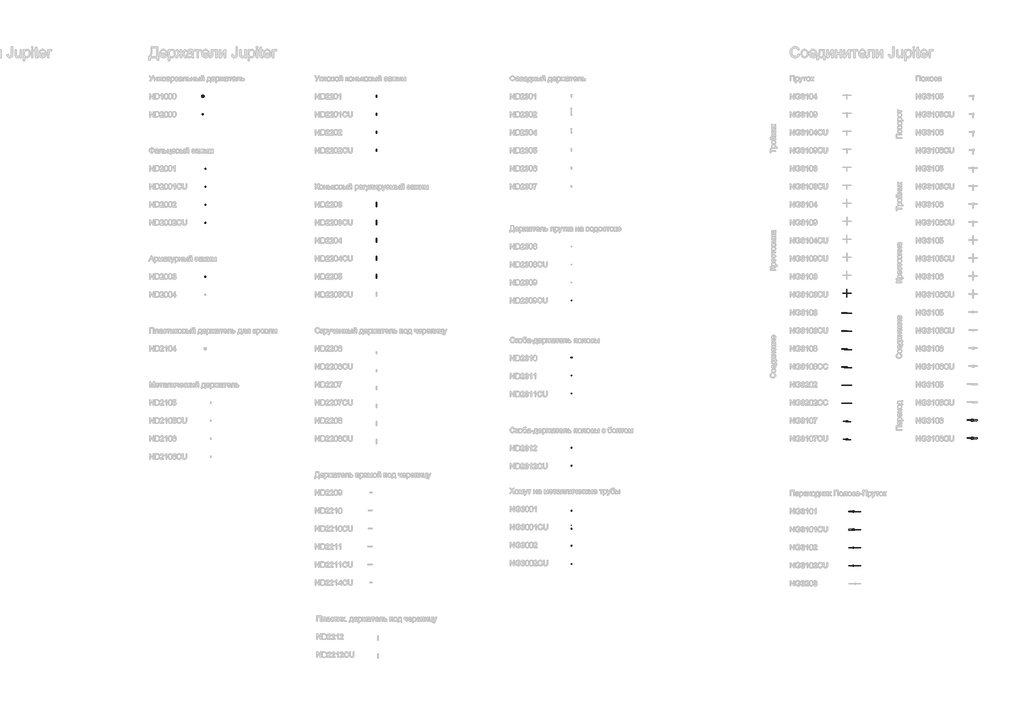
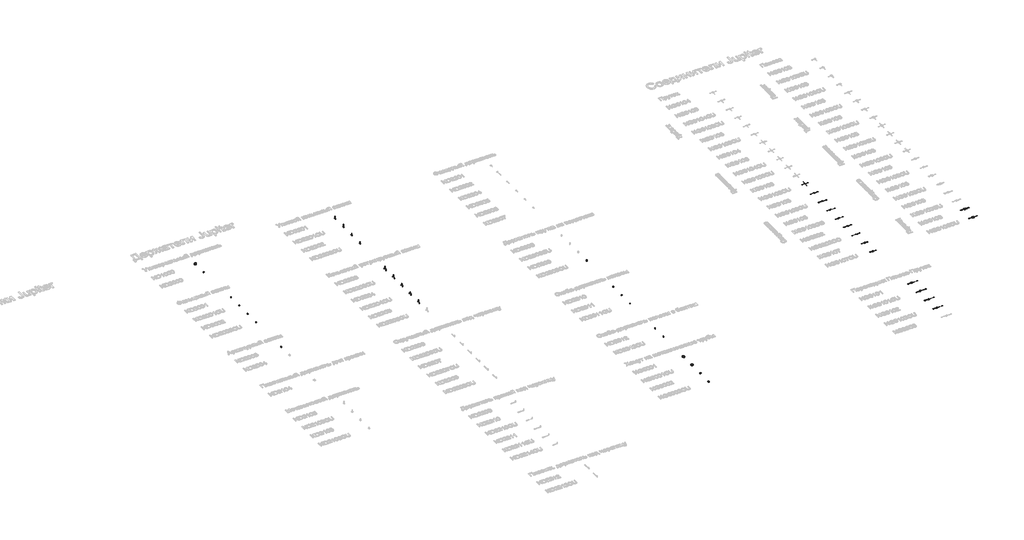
# One storey, part 4 of 124: 36 duct segments, 36 proxies, 3 duct fittings.
"""IFC4 building model written with IfcOpenShell, lengths in millimetres."""

from ifc_helpers import new_model, si_unit, point, frame, frame_2d, origin, place, context, project, spatial, polyline, circle_curve, trimmed, segment, composite_curve, outline, extrude, transform, mapped, element, save
from components import security_devices_cc728027, security_devices_46811bfe, security_devices_e27e2fcc, security_devices_21ef5ac7, security_devices_ac4f3ff4, security_devices_cea8c366, security_devices_44b4dedf, security_devices_d88ed466, security_devices_465cfc0b, security_devices_8e15ad44, security_devices_f6d8e784, security_devices_cc878f36, security_devices_9f6d2140, security_devices_44daf8d6, security_devices_ce004484, security_devices_262bb10d, security_devices_74660835, security_devices_2277527c, security_devices_c11cd4c4, security_devices_24ac14d3, security_devices_49846fc6, security_devices_9581dde5, duct_fitting_97711104, duct_fitting_08c6bc62

model = new_model("IFC4")

# Units and contexts
model_context = context("Model", 3, world=origin())
ifc_project = project(units=[si_unit("LENGTHUNIT", "METRE", prefix="MILLI")], contexts=[model_context])

# Site, building, storey
site = spatial("IfcSite", under=ifc_project)
building = spatial("IfcBuilding", under=site)
storey = spatial("IfcBuildingStorey", under=building, Name="Этаж 01", Elevation=0.0)

# Proxies
placement = place(None, origin())
security_devices_shape = security_devices_cc728027(model_context)
element("IfcBuildingElementProxy", 1, Name="КНС_ЗажимКоньковыйРегулируемый_DKC : ND2204_Горячеоцинкованная сталь_Пластиковый держатель", ObjectType="КНС_ЗажимКоньковыйРегулируемый_DKC : ND2204_Горячеоцинкованная сталь_Пластиковый держатель", at=placement, inside=storey, context=model_context, shape_type="MappedRepresentation", body=[
    mapped(security_devices_shape, transform((26740.3450598, -13375.2224286, 0.0), x_axis=(1.0, 0.0, 0.0), y_axis=(0.0, 1.0, 0.0), z_axis=(0.0, 0.0, 1.0))),
])
element("IfcBuildingElementProxy", 2, Name="КНС_ЗажимКоньковыйРегулируемый_DKC : ND2204CU_Медь_Пластиковый держатель", ObjectType="КНС_ЗажимКоньковыйРегулируемый_DKC : ND2204CU_Медь_Пластиковый держатель", at=placement, inside=storey, context=model_context, shape_type="MappedRepresentation", body=[
    mapped(security_devices_shape, transform((26740.3450598, -14375.2224286, 0.0), x_axis=(1.0, 0.0, 0.0), y_axis=(0.0, 1.0, 0.0), z_axis=(0.0, 0.0, 1.0))),
])
security_devices_2_shape = security_devices_46811bfe(model_context)
element("IfcBuildingElementProxy", 3, Name="КНС_ЗажимКоньковыйРегулируемый_DKC : ND2205_Горячеоцинкованная сталь", ObjectType="КНС_ЗажимКоньковыйРегулируемый_DKC : ND2205_Горячеоцинкованная сталь", at=placement, inside=storey, context=model_context, shape_type="MappedRepresentation", body=[
    mapped(security_devices_2_shape, transform((26740.3450598, -15375.2224286, 0.0), x_axis=(1.0, 0.0, 0.0), y_axis=(0.0, 1.0, 0.0), z_axis=(0.0, 0.0, 1.0))),
])
security_devices_3_shape = security_devices_e27e2fcc(model_context)
element("IfcBuildingElementProxy", 4, Name="КНС_ХомутНаМеталлическуюТрубу_DKC : NG3001CU_Медь_D80-160", ObjectType="КНС_ХомутНаМеталлическуюТрубу_DKC : NG3001CU_Медь_D80-160", at=placement, inside=storey, context=model_context, shape_type="MappedRepresentation", body=[
    mapped(security_devices_3_shape, transform((37561.6677041, -29277.1551823, 0.0), x_axis=(1.0, 0.0, 0.0), y_axis=(0.0, 1.0, 0.0), z_axis=(0.0, 0.0, 1.0))),
])
security_devices_4_shape = security_devices_21ef5ac7(model_context)
element("IfcBuildingElementProxy", 5, Name="КНС_СоединительПолосаПолоса_DKC : NG3106_Горячеоцинкованная сталь_100х100 мм", ObjectType="КНС_СоединительПолосаПолоса_DKC : NG3106_Горячеоцинкованная сталь_100х100 мм", at=placement, inside=storey, context=model_context, shape_type="MappedRepresentation", body=[
    mapped(security_devices_4_shape, transform((59813.3070748, -23351.033182, 0.0), x_axis=(1.0, 0.0, 0.0), y_axis=(0.0, 1.0, 0.0), z_axis=(0.0, 0.0, 1.0))),
])
element("IfcBuildingElementProxy", 6, Name="КНС_СоединительПолосаПолоса_DKC : NG3106CU_Медь_100х100 мм", ObjectType="КНС_СоединительПолосаПолоса_DKC : NG3106CU_Медь_100х100 мм", at=placement, inside=storey, context=model_context, shape_type="MappedRepresentation", body=[
    mapped(security_devices_4_shape, transform((59813.3070748, -24351.033182, 0.0), x_axis=(1.0, 0.0, 0.0), y_axis=(0.0, 1.0, 0.0), z_axis=(0.0, 0.0, 1.0))),
])
security_devices_5_shape = security_devices_ac4f3ff4(model_context)
element("IfcBuildingElementProxy", 7, Name="КНС_ПараллельныйЗажим_DKC : NG3108_Горячеоцинкованная сталь", ObjectType="КНС_ПараллельныйЗажим_DKC : NG3108_Горячеоцинкованная сталь", at=placement, inside=storey, context=model_context, shape_type="MappedRepresentation", body=[
    mapped(security_devices_5_shape, transform((52795.8122357, -19418.1770935, 0.0), x_axis=(0.0, 1.0, 0.0), y_axis=(-1.0, 0.0, 0.0), z_axis=(0.0, 0.0, 1.0))),
])
element("IfcBuildingElementProxy", 8, Name="КНС_ПараллельныйЗажим_DKC : NG3108CC_Омедненная сталь", ObjectType="КНС_ПараллельныйЗажим_DKC : NG3108CC_Омедненная сталь", at=placement, inside=storey, context=model_context, shape_type="MappedRepresentation", body=[
    mapped(security_devices_5_shape, transform((52795.8122357, -20418.2081196, 0.0), x_axis=(0.0, 1.0, 0.0), y_axis=(-1.0, 0.0, 0.0), z_axis=(0.0, 0.0, 1.0))),
])
security_devices_6_shape = security_devices_cea8c366(model_context)
element("IfcBuildingElementProxy", 9, Name="КНС_ПараллельныйЗажим_DKC : NG3107_Горячеоцинкованная сталь", ObjectType="КНС_ПараллельныйЗажим_DKC : NG3107_Горячеоцинкованная сталь", at=placement, inside=storey, context=model_context, shape_type="MappedRepresentation", body=[
    mapped(security_devices_6_shape, transform((52860.815004, -23417.7469214, -4.375), x_axis=(0.0, -1.0, 0.0), y_axis=(1.0, 0.0, 0.0), z_axis=(0.0, 0.0, 1.0))),
])
element("IfcBuildingElementProxy", 10, Name="КНС_ПараллельныйЗажим_DKC : NG3107CU_Медь", ObjectType="КНС_ПараллельныйЗажим_DKC : NG3107CU_Медь", at=placement, inside=storey, context=model_context, shape_type="MappedRepresentation", body=[
    mapped(security_devices_6_shape, transform((52860.815004, -24417.7469214, -4.375), x_axis=(0.0, -1.0, 0.0), y_axis=(1.0, 0.0, 0.0), z_axis=(0.0, 0.0, 1.0))),
])
security_devices_7_shape = security_devices_44b4dedf(model_context)
element("IfcBuildingElementProxy", 11, Name="КНС_СоединительПрутокПолоса_DKC : NG3101_Горячеоцинкованная сталь_57х80 мм", ObjectType="КНС_СоединительПрутокПолоса_DKC : NG3101_Горячеоцинкованная сталь_57х80 мм", at=placement, inside=storey, context=model_context, shape_type="MappedRepresentation", body=[
    mapped(security_devices_7_shape, transform((53218.3303693, -28431.258676, 0.0), x_axis=(0.0, -1.0, 0.0), y_axis=(1.0, 0.0, 0.0), z_axis=(0.0, 0.0, 1.0))),
])
element("IfcBuildingElementProxy", 12, Name="КНС_СоединительПрутокПолоса_DKC : NG3101CU_Медь_57х80 мм", ObjectType="КНС_СоединительПрутокПолоса_DKC : NG3101CU_Медь_57х80 мм", at=placement, inside=storey, context=model_context, shape_type="MappedRepresentation", body=[
    mapped(security_devices_7_shape, transform((53218.3303693, -29431.258676, 0.0), x_axis=(0.0, -1.0, 0.0), y_axis=(1.0, 0.0, 0.0), z_axis=(0.0, 0.0, 1.0))),
])
security_devices_8_shape = security_devices_d88ed466(model_context)
element("IfcBuildingElementProxy", 13, Name="КНС_СоединительПрутокПолоса_DKC : NG3102_Горячеоцинкованная сталь_57х57 мм", ObjectType="КНС_СоединительПрутокПолоса_DKC : NG3102_Горячеоцинкованная сталь_57х57 мм", at=placement, inside=storey, context=model_context, shape_type="MappedRepresentation", body=[
    mapped(security_devices_8_shape, transform((53218.3303693, -30431.258676, 0.0), x_axis=(0.0, -1.0, 0.0), y_axis=(1.0, 0.0, 0.0), z_axis=(0.0, 0.0, 1.0))),
])
element("IfcBuildingElementProxy", 14, Name="КНС_СоединительПрутокПолоса_DKC : NG3102CU_Медь_57х57 мм", ObjectType="КНС_СоединительПрутокПолоса_DKC : NG3102CU_Медь_57х57 мм", at=placement, inside=storey, context=model_context, shape_type="MappedRepresentation", body=[
    mapped(security_devices_8_shape, transform((53218.3303693, -31431.258676, 0.0), x_axis=(0.0, -1.0, 0.0), y_axis=(1.0, 0.0, 0.0), z_axis=(0.0, 0.0, 1.0))),
])
security_devices_9_shape = security_devices_465cfc0b(model_context)
element("IfcBuildingElementProxy", 15, Name="КНС_ДержательУниверсальный_DKC : ND1000_Полипропилен", ObjectType="КНС_ДержательУниверсальный_DKC : ND1000_Полипропилен", at=placement, inside=storey, context=model_context, shape_type="MappedRepresentation", body=[
    mapped(security_devices_9_shape, transform((17100.3450598, -5365.2224286, 0.0), x_axis=(1.0, 0.0, 0.0), y_axis=(0.0, 1.0, 0.0), z_axis=(0.0, 0.0, 1.0))),
])
security_devices_10_shape = security_devices_8e15ad44(model_context)
element("IfcBuildingElementProxy", 16, Name="КНС_ДержательУниверсальный_DKC : ND2000_Полипропилен", ObjectType="КНС_ДержательУниверсальный_DKC : ND2000_Полипропилен", at=placement, inside=storey, context=model_context, shape_type="MappedRepresentation", body=[
    mapped(security_devices_10_shape, transform((17100.3450598, -6365.2224286, 0.0), x_axis=(1.0, 0.0, 0.0), y_axis=(0.0, 1.0, 0.0), z_axis=(0.0, 0.0, 1.0))),
])
security_devices_11_shape = security_devices_f6d8e784(model_context)
element("IfcBuildingElementProxy", 17, Name="КНС_ЗажимФальцевый_DKC : ND2001_Горячеоцинкованная сталь", ObjectType="КНС_ЗажимФальцевый_DKC : ND2001_Горячеоцинкованная сталь", at=placement, inside=storey, context=model_context, shape_type="MappedRepresentation", body=[
    mapped(security_devices_11_shape, transform((17240.3450598, -9385.2224286, 0.0), x_axis=(1.0, 0.0, 0.0), y_axis=(0.0, 1.0, 0.0), z_axis=(0.0, 0.0, 1.0))),
])
element("IfcBuildingElementProxy", 18, Name="КНС_ЗажимФальцевый_DKC : ND2001CU_Медь", ObjectType="КНС_ЗажимФальцевый_DKC : ND2001CU_Медь", at=placement, inside=storey, context=model_context, shape_type="MappedRepresentation", body=[
    mapped(security_devices_11_shape, transform((17240.3450598, -10385.2224286, 0.0), x_axis=(1.0, 0.0, 0.0), y_axis=(0.0, 1.0, 0.0), z_axis=(0.0, 0.0, 1.0))),
])
security_devices_12_shape = security_devices_cc878f36(model_context)
element("IfcBuildingElementProxy", 19, Name="КНС_ЗажимФальцевый_DKC : ND2002_Горячеоцинкованная сталь", ObjectType="КНС_ЗажимФальцевый_DKC : ND2002_Горячеоцинкованная сталь", at=placement, inside=storey, context=model_context, shape_type="MappedRepresentation", body=[
    mapped(security_devices_12_shape, transform((17240.3450598, -11385.2224286, 0.0), x_axis=(1.0, 0.0, 0.0), y_axis=(0.0, 1.0, 0.0), z_axis=(0.0, 0.0, 1.0))),
])
element("IfcBuildingElementProxy", 20, Name="КНС_ЗажимФальцевый_DKC : ND2002CU_Медь", ObjectType="КНС_ЗажимФальцевый_DKC : ND2002CU_Медь", at=placement, inside=storey, context=model_context, shape_type="MappedRepresentation", body=[
    mapped(security_devices_12_shape, transform((17240.3450598, -12385.2224286, 0.0), x_axis=(1.0, 0.0, 0.0), y_axis=(0.0, 1.0, 0.0), z_axis=(0.0, 0.0, 1.0))),
])
security_devices_13_shape = security_devices_9f6d2140(model_context)
element("IfcBuildingElementProxy", 21, Name="КНС_ЗажимАрматурный_DKC : ND2003_Гальванически оцинкованнная сталь", ObjectType="КНС_ЗажимАрматурный_DKC : ND2003_Гальванически оцинкованнная сталь", at=placement, inside=storey, context=model_context, shape_type="MappedRepresentation", body=[
    mapped(security_devices_13_shape, transform((17240.3450598, -15385.2224286, 0.0), x_axis=(1.0, 0.0, 0.0), y_axis=(0.0, 1.0, 0.0), z_axis=(0.0, 0.0, 1.0))),
])
security_devices_14_shape = security_devices_44daf8d6(model_context)
element("IfcBuildingElementProxy", 22, Name="КНС_ЗажимУгловойКоньковый _DKC : ND2201_Горячеоцинкованная сталь_150 мм", ObjectType="КНС_ЗажимУгловойКоньковый _DKC : ND2201_Горячеоцинкованная сталь_150 мм", at=placement, inside=storey, context=model_context, shape_type="MappedRepresentation", body=[
    mapped(security_devices_14_shape, transform((26740.3450598, -5365.2224286, 0.0), x_axis=(1.0, 0.0, 0.0), y_axis=(0.0, 1.0, 0.0), z_axis=(0.0, 0.0, 1.0))),
])
security_devices_15_shape = security_devices_ce004484(model_context)
element("IfcBuildingElementProxy", 23, Name="КНС_ЗажимУгловойКоньковый _DKC : ND2202_Горячеоцинкованная сталь_100 мм", ObjectType="КНС_ЗажимУгловойКоньковый _DKC : ND2202_Горячеоцинкованная сталь_100 мм", at=placement, inside=storey, context=model_context, shape_type="MappedRepresentation", body=[
    mapped(security_devices_15_shape, transform((26740.3450598, -7365.2224286, 0.0), x_axis=(1.0, 0.0, 0.0), y_axis=(0.0, 1.0, 0.0), z_axis=(0.0, 0.0, 1.0))),
])
security_devices_16_shape = security_devices_262bb10d(model_context)
element("IfcBuildingElementProxy", 24, Name="КНС_ЗажимУгловойКоньковый _DKC : ND2201CU_Медь_150 мм", ObjectType="КНС_ЗажимУгловойКоньковый _DKC : ND2201CU_Медь_150 мм", at=placement, inside=storey, context=model_context, shape_type="MappedRepresentation", body=[
    mapped(security_devices_16_shape, transform((26740.3450598, -6365.2224286, 0.0), x_axis=(1.0, 0.0, 0.0), y_axis=(0.0, 1.0, 0.0), z_axis=(0.0, 0.0, 1.0))),
])
element("IfcBuildingElementProxy", 25, Name="КНС_ЗажимУгловойКоньковый _DKC : ND2202CU_Медь_100 мм", ObjectType="КНС_ЗажимУгловойКоньковый _DKC : ND2202CU_Медь_100 мм", at=placement, inside=storey, context=model_context, shape_type="MappedRepresentation", body=[
    mapped(security_devices_15_shape, transform((26740.3450598, -8365.2224286, 0.0), x_axis=(1.0, 0.0, 0.0), y_axis=(0.0, 1.0, 0.0), z_axis=(0.0, 0.0, 1.0))),
])
security_devices_17_shape = security_devices_74660835(model_context)
element("IfcBuildingElementProxy", 26, Name="КНС_ЗажимКоньковыйРегулируемый_DKC : ND2203CU_Медь_Увеличенный", ObjectType="КНС_ЗажимКоньковыйРегулируемый_DKC : ND2203CU_Медь_Увеличенный", at=placement, inside=storey, context=model_context, shape_type="MappedRepresentation", body=[
    mapped(security_devices_17_shape, transform((26740.3450598, -12375.2224286, 0.0), x_axis=(1.0, 0.0, 0.0), y_axis=(0.0, 1.0, 0.0), z_axis=(0.0, 0.0, 1.0))),
])
element("IfcBuildingElementProxy", 27, Name="КНС_ЗажимКоньковыйРегулируемый_DKC : ND2203_Горячеоцинкованная сталь_Увеличенный", ObjectType="КНС_ЗажимКоньковыйРегулируемый_DKC : ND2203_Горячеоцинкованная сталь_Увеличенный", at=placement, inside=storey, context=model_context, shape_type="MappedRepresentation", body=[
    mapped(security_devices_17_shape, transform((26740.3450598, -11375.2224286, 0.0), x_axis=(1.0, 0.0, 0.0), y_axis=(0.0, 1.0, 0.0), z_axis=(0.0, 0.0, 1.0))),
])
security_devices_18_shape = security_devices_2277527c(model_context)
element("IfcBuildingElementProxy", 28, Name="КНС_ДержательПруткаНаВодостоке_DKC : ND2309CU_Медь", ObjectType="КНС_ДержательПруткаНаВодостоке_DKC : ND2309CU_Медь", at=placement, inside=storey, context=model_context, shape_type="MappedRepresentation", body=[
    mapped(security_devices_18_shape, transform((37561.6677041, -16696.248794, 0.0), x_axis=(1.0, 0.0, 0.0), y_axis=(0.0, 1.0, 0.0), z_axis=(0.0, 0.0, 1.0))),
])
security_devices_19_shape = security_devices_c11cd4c4(model_context)
element("IfcBuildingElementProxy", 29, Name="КНС_СкобаДержательПолосы_DKC : ND2310_Горячеоцинкованная сталь_70 мм", ObjectType="КНС_СкобаДержательПолосы_DKC : ND2310_Горячеоцинкованная сталь_70 мм", at=placement, inside=storey, context=model_context, shape_type="MappedRepresentation", body=[
    mapped(security_devices_19_shape, transform((37561.6677041, -19896.248794, 0.0), x_axis=(1.0, 0.0, 0.0), y_axis=(0.0, 1.0, 0.0), z_axis=(0.0, 0.0, 1.0))),
])
security_devices_20_shape = security_devices_24ac14d3(model_context)
element("IfcBuildingElementProxy", 30, Name="КНС_СкобаДержательПолосы_DKC : ND2311_Горячеоцинкованная сталь_45 мм", ObjectType="КНС_СкобаДержательПолосы_DKC : ND2311_Горячеоцинкованная сталь_45 мм", at=placement, inside=storey, context=model_context, shape_type="MappedRepresentation", body=[
    mapped(security_devices_20_shape, transform((37561.6677041, -20896.248794, 0.0), x_axis=(1.0, 0.0, 0.0), y_axis=(0.0, 1.0, 0.0), z_axis=(0.0, 0.0, 1.0))),
])
element("IfcBuildingElementProxy", 31, Name="КНС_СкобаДержательПолосы_DKC : ND2311CU_Медь_45 мм", ObjectType="КНС_СкобаДержательПолосы_DKC : ND2311CU_Медь_45 мм", at=placement, inside=storey, context=model_context, shape_type="MappedRepresentation", body=[
    mapped(security_devices_20_shape, transform((37561.6677041, -21896.248794, 0.0), x_axis=(1.0, 0.0, 0.0), y_axis=(0.0, 1.0, 0.0), z_axis=(0.0, 0.0, 1.0))),
])
security_devices_21_shape = security_devices_49846fc6(model_context)
element("IfcBuildingElementProxy", 32, Name="КНС_СкобаДержательПолосыСБолтом_DKC : ND2312CU_Медь_45 мм", ObjectType="КНС_СкобаДержательПолосыСБолтом_DKC : ND2312CU_Медь_45 мм", at=placement, inside=storey, context=model_context, shape_type="MappedRepresentation", body=[
    mapped(security_devices_21_shape, transform((37561.6677041, -25896.248794, 0.0), x_axis=(1.0, 0.0, 0.0), y_axis=(0.0, 1.0, 0.0), z_axis=(0.0, 0.0, 1.0))),
])
element("IfcBuildingElementProxy", 33, Name="КНС_СкобаДержательПолосыСБолтом_DKC : ND2312_Горячеоцинкованная сталь_45 мм", ObjectType="КНС_СкобаДержательПолосыСБолтом_DKC : ND2312_Горячеоцинкованная сталь_45 мм", at=placement, inside=storey, context=model_context, shape_type="MappedRepresentation", body=[
    mapped(security_devices_21_shape, transform((37561.6677041, -24896.248794, 0.0), x_axis=(1.0, 0.0, 0.0), y_axis=(0.0, 1.0, 0.0), z_axis=(0.0, 0.0, 1.0))),
])
element("IfcBuildingElementProxy", 34, Name="КНС_ХомутНаМеталлическуюТрубу_DKC : NG3001_Нержавеющая сталь_D80-160", ObjectType="КНС_ХомутНаМеталлическуюТрубу_DKC : NG3001_Нержавеющая сталь_D80-160", at=placement, inside=storey, context=model_context, shape_type="MappedRepresentation", body=[
    mapped(security_devices_3_shape, transform((37561.6677041, -28277.1551823, 0.0), x_axis=(1.0, 0.0, 0.0), y_axis=(0.0, 1.0, 0.0), z_axis=(0.0, 0.0, 1.0))),
])
security_devices_22_shape = security_devices_9581dde5(model_context)
element("IfcBuildingElementProxy", 35, Name="КНС_ХомутНаМеталлическуюТрубу_DKC : NG3002_Нержавеющая сталь_D20-80", ObjectType="КНС_ХомутНаМеталлическуюТрубу_DKC : NG3002_Нержавеющая сталь_D20-80", at=placement, inside=storey, context=model_context, shape_type="MappedRepresentation", body=[
    mapped(security_devices_22_shape, transform((37561.6677041, -30277.1551823, 0.0), x_axis=(1.0, 0.0, 0.0), y_axis=(0.0, 1.0, 0.0), z_axis=(0.0, 0.0, 1.0))),
])
element("IfcBuildingElementProxy", 36, Name="КНС_ХомутНаМеталлическуюТрубу_DKC : NG3002CU_Медь_D20-80", ObjectType="КНС_ХомутНаМеталлическуюТрубу_DKC : NG3002CU_Медь_D20-80", at=placement, inside=storey, context=model_context, shape_type="MappedRepresentation", body=[
    mapped(security_devices_22_shape, transform((37561.6677041, -31277.1551823, 0.0), x_axis=(1.0, 0.0, 0.0), y_axis=(0.0, 1.0, 0.0), z_axis=(0.0, 0.0, 1.0))),
])

# Duct fittings
duct_fitting_shape = duct_fitting_97711104(model_context)
element("IfcDuctFitting", 37, ObjectType="КНС_Крестовина_Пруток_Неспецифицируемое_DKC : NG3103CU_Медь", at=placement, inside=storey, context=model_context, shape_type="MappedRepresentation", body=[
    mapped(duct_fitting_shape, transform((52856.4464175, -16309.3160042, 0.0), x_axis=(0.0, -1.0, 0.0), y_axis=(1.0, 0.0, 0.0), z_axis=(0.0, 0.0, 1.0))),
])
duct_fitting_2_shape = duct_fitting_08c6bc62(model_context)
element("IfcDuctFitting", 38, ObjectType="КНС_Переход_Полоса_Неспецифицируемое_DKC : NG3106_Горячеоцинкованная сталь_100х100 мм", at=placement, inside=storey, context=model_context, shape_type="MappedRepresentation", body=[
    mapped(duct_fitting_2_shape, transform((59822.0570748, -23351.033182, 0.0), x_axis=(1.0, 0.0, 0.0), y_axis=(0.0, 1.0, 0.0), z_axis=(0.0, 0.0, 1.0))),
])
element("IfcDuctFitting", 39, ObjectType="КНС_Переход_Полоса_Неспецифицируемое_DKC : NG3106CU_Медь_100х100 мм", at=placement, inside=storey, context=model_context, shape_type="MappedRepresentation", body=[
    mapped(duct_fitting_2_shape, transform((59822.0570748, -24351.033182, 0.0), x_axis=(1.0, 0.0, 0.0), y_axis=(0.0, 1.0, 0.0), z_axis=(0.0, 0.0, 1.0))),
])

# Duct segments
element("IfcDuctSegment", 40, ObjectType="КНС_Пруток_Горячеоцинкованный_8/10мм_DKC", at=placement, inside=storey, context=model_context, shape_type="SweptSolid", body=[
    extrude(outline(composite_curve([segment(trimmed(circle_curve(frame_2d((0.0, 52856.4464175)), 4.0), [point((0.0, 52852.4464175))], [point((-4.0, 52856.4464175))], False, "CARTESIAN"), True, "CONTINUOUS"), segment(trimmed(circle_curve(frame_2d((0.0, 52856.4464175)), 4.0), [point((-4.0, 52856.4464175))], [point((0.0, 52860.4464175))], False, "CARTESIAN"), True, "CONTINUOUS"), segment(trimmed(circle_curve(frame_2d((0.0, 52856.4464175)), 4.0), [point((0.0, 52860.4464175))], [point((4.0, 52856.4464175))], False, "CARTESIAN"), True, "CONTINUOUS"), segment(trimmed(circle_curve(frame_2d((0.0, 52856.4464175)), 4.0), [point((4.0, 52856.4464175))], [point((0.0, 52852.4464175))], False, "CARTESIAN"), True, "CONTINUOUS")], self_intersect=False)), frame((0.0, -16537.8160042, 0.0), z_axis=(0.0, 1.0, 0.0), x_axis=(0.0, 0.0, 1.0)), (0.0, 0.0, 1.0), 213.5),
])
element("IfcDuctSegment", 41, ObjectType="КНС_Пруток_Горячеоцинкованный_8/10мм_DKC", at=placement, inside=storey, context=model_context, shape_type="SweptSolid", body=[
    extrude(outline(composite_curve([segment(trimmed(circle_curve(frame_2d((-16309.3160042, 0.0)), 4.0), [point((-16305.3160042, 0.0))], [point((-16309.3160042, -4.0))], False, "CARTESIAN"), True, "CONTINUOUS"), segment(trimmed(circle_curve(frame_2d((-16309.3160042, 0.0)), 4.0), [point((-16309.3160042, -4.0))], [point((-16313.3160042, 0.0))], False, "CARTESIAN"), True, "CONTINUOUS"), segment(trimmed(circle_curve(frame_2d((-16309.3160042, 0.0)), 4.0), [point((-16313.3160042, 0.0))], [point((-16309.3160042, 4.0))], False, "CARTESIAN"), True, "CONTINUOUS"), segment(trimmed(circle_curve(frame_2d((-16309.3160042, 0.0)), 4.0), [point((-16309.3160042, 4.0))], [point((-16305.3160042, 0.0))], False, "CARTESIAN"), True, "CONTINUOUS")], self_intersect=False)), frame((52627.9464175, 0.0, 0.0), z_axis=(1.0, 0.0, 0.0), x_axis=(0.0, 1.0, 0.0)), (0.0, 0.0, 1.0), 198.5),
])
element("IfcDuctSegment", 42, ObjectType="КНС_Пруток_Горячеоцинкованный_8/10мм_DKC", at=placement, inside=storey, context=model_context, shape_type="SweptSolid", body=[
    extrude(outline(composite_curve([segment(trimmed(circle_curve(frame_2d((-16309.3160042, 0.0)), 4.0), [point((-16305.3160042, 0.0))], [point((-16309.3160042, -4.0))], False, "CARTESIAN"), True, "CONTINUOUS"), segment(trimmed(circle_curve(frame_2d((-16309.3160042, 0.0)), 4.0), [point((-16309.3160042, -4.0))], [point((-16313.3160042, 0.0))], False, "CARTESIAN"), True, "CONTINUOUS"), segment(trimmed(circle_curve(frame_2d((-16309.3160042, 0.0)), 4.0), [point((-16313.3160042, 0.0))], [point((-16309.3160042, 4.0))], False, "CARTESIAN"), True, "CONTINUOUS"), segment(trimmed(circle_curve(frame_2d((-16309.3160042, 0.0)), 4.0), [point((-16309.3160042, 4.0))], [point((-16305.3160042, 0.0))], False, "CARTESIAN"), True, "CONTINUOUS")], self_intersect=False)), frame((52871.4464175, 0.0, 0.0), z_axis=(1.0, 0.0, 0.0), x_axis=(0.0, 1.0, 0.0)), (0.0, 0.0, 1.0), 213.5),
])
element("IfcDuctSegment", 43, ObjectType="КНС_Пруток_Горячеоцинкованный_8/10мм_DKC", at=placement, inside=storey, context=model_context, shape_type="SweptSolid", body=[
    extrude(outline(composite_curve([segment(trimmed(circle_curve(frame_2d((0.0, 52856.4464175)), 4.0), [point((0.0, 52860.4464175))], [point((4.0, 52856.4464175))], False, "CARTESIAN"), True, "CONTINUOUS"), segment(trimmed(circle_curve(frame_2d((0.0, 52856.4464175)), 4.0), [point((4.0, 52856.4464175))], [point((0.0, 52852.4464175))], False, "CARTESIAN"), True, "CONTINUOUS"), segment(trimmed(circle_curve(frame_2d((0.0, 52856.4464175)), 4.0), [point((0.0, 52852.4464175))], [point((-4.0, 52856.4464175))], False, "CARTESIAN"), True, "CONTINUOUS"), segment(trimmed(circle_curve(frame_2d((0.0, 52856.4464175)), 4.0), [point((-4.0, 52856.4464175))], [point((0.0, 52860.4464175))], False, "CARTESIAN"), True, "CONTINUOUS")], self_intersect=False)), frame((0.0, -16279.3160042, 0.0), z_axis=(0.0, 1.0, 0.0), x_axis=(0.0, 0.0, 1.0)), (0.0, 0.0, 1.0), 198.5),
])
element("IfcDuctSegment", 44, ObjectType="КНС_Полоса_Горячеоцинкованная_25х4/40х4/40x5/50х5мм_DKC", at=placement, inside=storey, context=model_context, shape_type="SweptSolid", body=[
    extrude(outline(polyline([(52956.8303693, -28443.758676), (52956.8303693, -28418.758676), (53296.8303693, -28418.758676), (53296.8303693, -28443.758676), (52956.8303693, -28443.758676)])), frame((0.0, 0.0, -2.0), z_axis=(0.0, 0.0, 1.0), x_axis=(1.0, 0.0, 0.0)), (0.0, 0.0, 1.0), 4.0),
])
element("IfcDuctSegment", 45, ObjectType="КНС_Пруток_Горячеоцинкованный_8/10мм_DKC", at=placement, inside=storey, context=model_context, shape_type="SweptSolid", body=[
    extrude(outline(composite_curve([segment(trimmed(circle_curve(frame_2d((-28431.258676, 0.0)), 4.0), [point((-28435.258676, 0.0))], [point((-28431.258676, 4.0))], False, "CARTESIAN"), True, "CONTINUOUS"), segment(trimmed(circle_curve(frame_2d((-28431.258676, 0.0)), 4.0), [point((-28431.258676, 4.0))], [point((-28427.258676, 0.0))], False, "CARTESIAN"), True, "CONTINUOUS"), segment(trimmed(circle_curve(frame_2d((-28431.258676, 0.0)), 4.0), [point((-28427.258676, 0.0))], [point((-28431.258676, -4.0))], False, "CARTESIAN"), True, "CONTINUOUS"), segment(trimmed(circle_curve(frame_2d((-28431.258676, 0.0)), 4.0), [point((-28431.258676, -4.0))], [point((-28435.258676, 0.0))], False, "CARTESIAN"), True, "CONTINUOUS")], self_intersect=False)), frame((53139.8303693, 0.0, 0.0), z_axis=(1.0, 0.0, 0.0), x_axis=(0.0, 1.0, 0.0)), (0.0, 0.0, 1.0), 497.0),
])
element("IfcDuctSegment", 46, ObjectType="КНС_Полоса_Горячеоцинкованная_25х4/40х4/40x5/50х5мм_DKC", at=placement, inside=storey, context=model_context, shape_type="SweptSolid", body=[
    extrude(outline(polyline([(52956.8303693, -29451.258676), (52956.8303693, -29411.258676), (53296.8303693, -29411.258676), (53296.8303693, -29451.258676), (52956.8303693, -29451.258676)])), frame((0.0, 0.0, -2.0), z_axis=(0.0, 0.0, 1.0), x_axis=(1.0, 0.0, 0.0)), (0.0, 0.0, 1.0), 4.0),
])
element("IfcDuctSegment", 47, ObjectType="КНС_Пруток_Горячеоцинкованный_8/10мм_DKC", at=placement, inside=storey, context=model_context, shape_type="SweptSolid", body=[
    extrude(outline(composite_curve([segment(trimmed(circle_curve(frame_2d((-29431.258676, 0.0)), 4.0), [point((-29435.258676, 0.0))], [point((-29431.258676, 4.0))], False, "CARTESIAN"), True, "CONTINUOUS"), segment(trimmed(circle_curve(frame_2d((-29431.258676, 0.0)), 4.0), [point((-29431.258676, 4.0))], [point((-29427.258676, 0.0))], False, "CARTESIAN"), True, "CONTINUOUS"), segment(trimmed(circle_curve(frame_2d((-29431.258676, 0.0)), 4.0), [point((-29427.258676, 0.0))], [point((-29431.258676, -4.0))], False, "CARTESIAN"), True, "CONTINUOUS"), segment(trimmed(circle_curve(frame_2d((-29431.258676, 0.0)), 4.0), [point((-29431.258676, -4.0))], [point((-29435.258676, 0.0))], False, "CARTESIAN"), True, "CONTINUOUS")], self_intersect=False)), frame((53139.8303693, 0.0, 0.0), z_axis=(1.0, 0.0, 0.0), x_axis=(0.0, 1.0, 0.0)), (0.0, 0.0, 1.0), 497.0),
])
element("IfcDuctSegment", 48, ObjectType="КНС_Полоса_Горячеоцинкованная_25х4/40х4/40x5/50х5мм_DKC", at=placement, inside=storey, context=model_context, shape_type="SweptSolid", body=[
    extrude(outline(polyline([(52956.8303693, -30443.758676), (52956.8303693, -30418.758676), (53296.8303693, -30418.758676), (53296.8303693, -30443.758676), (52956.8303693, -30443.758676)])), frame((0.0, 0.0, -2.0), z_axis=(0.0, 0.0, 1.0), x_axis=(1.0, 0.0, 0.0)), (0.0, 0.0, 1.0), 4.0),
])
element("IfcDuctSegment", 49, ObjectType="КНС_Пруток_Горячеоцинкованный_8/10мм_DKC", at=placement, inside=storey, context=model_context, shape_type="SweptSolid", body=[
    extrude(outline(composite_curve([segment(trimmed(circle_curve(frame_2d((-30431.258676, 0.0)), 4.0), [point((-30435.258676, 0.0))], [point((-30431.258676, 4.0))], False, "CARTESIAN"), True, "CONTINUOUS"), segment(trimmed(circle_curve(frame_2d((-30431.258676, 0.0)), 4.0), [point((-30431.258676, 4.0))], [point((-30427.258676, 0.0))], False, "CARTESIAN"), True, "CONTINUOUS"), segment(trimmed(circle_curve(frame_2d((-30431.258676, 0.0)), 4.0), [point((-30427.258676, 0.0))], [point((-30431.258676, -4.0))], False, "CARTESIAN"), True, "CONTINUOUS"), segment(trimmed(circle_curve(frame_2d((-30431.258676, 0.0)), 4.0), [point((-30431.258676, -4.0))], [point((-30435.258676, 0.0))], False, "CARTESIAN"), True, "CONTINUOUS")], self_intersect=False)), frame((53139.8303693, 0.0, 0.0), z_axis=(1.0, 0.0, 0.0), x_axis=(0.0, 1.0, 0.0)), (0.0, 0.0, 1.0), 497.0),
])
element("IfcDuctSegment", 50, ObjectType="КНС_Полоса_Горячеоцинкованная_25х4/40х4/40x5/50х5мм_DKC", at=placement, inside=storey, context=model_context, shape_type="SweptSolid", body=[
    extrude(outline(polyline([(52956.8303693, -31443.758676), (52956.8303693, -31418.758676), (53296.8303693, -31418.758676), (53296.8303693, -31443.758676), (52956.8303693, -31443.758676)])), frame((0.0, 0.0, -2.0), z_axis=(0.0, 0.0, 1.0), x_axis=(1.0, 0.0, 0.0)), (0.0, 0.0, 1.0), 4.0),
])
element("IfcDuctSegment", 51, ObjectType="КНС_Пруток_Горячеоцинкованный_8/10мм_DKC", at=placement, inside=storey, context=model_context, shape_type="SweptSolid", body=[
    extrude(outline(composite_curve([segment(trimmed(circle_curve(frame_2d((-31431.258676, 0.0)), 4.0), [point((-31435.258676, 0.0))], [point((-31431.258676, 4.0))], False, "CARTESIAN"), True, "CONTINUOUS"), segment(trimmed(circle_curve(frame_2d((-31431.258676, 0.0)), 4.0), [point((-31431.258676, 4.0))], [point((-31427.258676, 0.0))], False, "CARTESIAN"), True, "CONTINUOUS"), segment(trimmed(circle_curve(frame_2d((-31431.258676, 0.0)), 4.0), [point((-31427.258676, 0.0))], [point((-31431.258676, -4.0))], False, "CARTESIAN"), True, "CONTINUOUS"), segment(trimmed(circle_curve(frame_2d((-31431.258676, 0.0)), 4.0), [point((-31431.258676, -4.0))], [point((-31435.258676, 0.0))], False, "CARTESIAN"), True, "CONTINUOUS")], self_intersect=False)), frame((53139.8303693, 0.0, 0.0), z_axis=(1.0, 0.0, 0.0), x_axis=(0.0, 1.0, 0.0)), (0.0, 0.0, 1.0), 497.0),
])
element("IfcDuctSegment", 52, ObjectType="КНС_Пруток_Горячеоцинкованный_8/10мм_DKC", at=placement, inside=storey, context=model_context, shape_type="SweptSolid", body=[
    extrude(outline(composite_curve([segment(trimmed(circle_curve(frame_2d((-17417.5081196, 0.0)), 5.0), [point((-17422.5081196, 0.0))], [point((-17417.5081196, 5.0))], False, "CARTESIAN"), True, "CONTINUOUS"), segment(trimmed(circle_curve(frame_2d((-17417.5081196, 0.0)), 5.0), [point((-17417.5081196, 5.0))], [point((-17412.5081196, 0.0))], False, "CARTESIAN"), True, "CONTINUOUS"), segment(trimmed(circle_curve(frame_2d((-17417.5081196, 0.0)), 5.0), [point((-17412.5081196, 0.0))], [point((-17417.5081196, -5.0))], False, "CARTESIAN"), True, "CONTINUOUS"), segment(trimmed(circle_curve(frame_2d((-17417.5081196, 0.0)), 5.0), [point((-17417.5081196, -5.0))], [point((-17422.5081196, 0.0))], False, "CARTESIAN"), True, "CONTINUOUS")], self_intersect=False)), frame((52829.3122357, 0.0, 0.0), z_axis=(1.0, 0.0, 0.0), x_axis=(0.0, 1.0, 0.0)), (0.0, 0.0, 1.0), 300.0),
])
element("IfcDuctSegment", 53, ObjectType="КНС_Пруток_Горячеоцинкованный_8/10мм_DKC", at=placement, inside=storey, context=model_context, shape_type="SweptSolid", body=[
    extrude(outline(composite_curve([segment(trimmed(circle_curve(frame_2d((-17402.5081196, 0.0)), 5.0), [point((-17407.5081196, 0.0))], [point((-17402.5081196, 5.0))], False, "CARTESIAN"), True, "CONTINUOUS"), segment(trimmed(circle_curve(frame_2d((-17402.5081196, 0.0)), 5.0), [point((-17402.5081196, 5.0))], [point((-17397.5081196, 0.0))], False, "CARTESIAN"), True, "CONTINUOUS"), segment(trimmed(circle_curve(frame_2d((-17402.5081196, 0.0)), 5.0), [point((-17397.5081196, 0.0))], [point((-17402.5081196, -5.0))], False, "CARTESIAN"), True, "CONTINUOUS"), segment(trimmed(circle_curve(frame_2d((-17402.5081196, 0.0)), 5.0), [point((-17402.5081196, -5.0))], [point((-17407.5081196, 0.0))], False, "CARTESIAN"), True, "CONTINUOUS")], self_intersect=False)), frame((52574.3122357, 0.0, 0.0), z_axis=(1.0, 0.0, 0.0), x_axis=(0.0, 1.0, 0.0)), (0.0, 0.0, 1.0), 300.0),
])
element("IfcDuctSegment", 54, ObjectType="КНС_Пруток_Горячеоцинкованный_8/10мм_DKC", at=placement, inside=storey, context=model_context, shape_type="SweptSolid", body=[
    extrude(outline(composite_curve([segment(trimmed(circle_curve(frame_2d((-18417.5081196, 0.0)), 5.0), [point((-18422.5081196, 0.0))], [point((-18417.5081196, 5.0))], False, "CARTESIAN"), True, "CONTINUOUS"), segment(trimmed(circle_curve(frame_2d((-18417.5081196, 0.0)), 5.0), [point((-18417.5081196, 5.0))], [point((-18412.5081196, 0.0))], False, "CARTESIAN"), True, "CONTINUOUS"), segment(trimmed(circle_curve(frame_2d((-18417.5081196, 0.0)), 5.0), [point((-18412.5081196, 0.0))], [point((-18417.5081196, -5.0))], False, "CARTESIAN"), True, "CONTINUOUS"), segment(trimmed(circle_curve(frame_2d((-18417.5081196, 0.0)), 5.0), [point((-18417.5081196, -5.0))], [point((-18422.5081196, 0.0))], False, "CARTESIAN"), True, "CONTINUOUS")], self_intersect=False)), frame((52829.3122357, 0.0, 0.0), z_axis=(1.0, 0.0, 0.0), x_axis=(0.0, 1.0, 0.0)), (0.0, 0.0, 1.0), 300.0),
])
element("IfcDuctSegment", 55, ObjectType="КНС_Пруток_Горячеоцинкованный_8/10мм_DKC", at=placement, inside=storey, context=model_context, shape_type="SweptSolid", body=[
    extrude(outline(composite_curve([segment(trimmed(circle_curve(frame_2d((-18402.5081196, 0.0)), 5.0), [point((-18407.5081196, 0.0))], [point((-18402.5081196, 5.0))], False, "CARTESIAN"), True, "CONTINUOUS"), segment(trimmed(circle_curve(frame_2d((-18402.5081196, 0.0)), 5.0), [point((-18402.5081196, 5.0))], [point((-18397.5081196, 0.0))], False, "CARTESIAN"), True, "CONTINUOUS"), segment(trimmed(circle_curve(frame_2d((-18402.5081196, 0.0)), 5.0), [point((-18397.5081196, 0.0))], [point((-18402.5081196, -5.0))], False, "CARTESIAN"), True, "CONTINUOUS"), segment(trimmed(circle_curve(frame_2d((-18402.5081196, 0.0)), 5.0), [point((-18402.5081196, -5.0))], [point((-18407.5081196, 0.0))], False, "CARTESIAN"), True, "CONTINUOUS")], self_intersect=False)), frame((52574.3122357, 0.0, 0.0), z_axis=(1.0, 0.0, 0.0), x_axis=(0.0, 1.0, 0.0)), (0.0, 0.0, 1.0), 300.0),
])
element("IfcDuctSegment", 56, ObjectType="КНС_Пруток_Горячеоцинкованный_8/10мм_DKC", at=placement, inside=storey, context=model_context, shape_type="SweptSolid", body=[
    extrude(outline(composite_curve([segment(trimmed(circle_curve(frame_2d((-19434.1081196, 0.0)), 5.0), [point((-19439.1081196, 0.0))], [point((-19434.1081196, 5.0))], False, "CARTESIAN"), True, "CONTINUOUS"), segment(trimmed(circle_curve(frame_2d((-19434.1081196, 0.0)), 5.0), [point((-19434.1081196, 5.0))], [point((-19429.1081196, 0.0))], False, "CARTESIAN"), True, "CONTINUOUS"), segment(trimmed(circle_curve(frame_2d((-19434.1081196, 0.0)), 5.0), [point((-19429.1081196, 0.0))], [point((-19434.1081196, -5.0))], False, "CARTESIAN"), True, "CONTINUOUS"), segment(trimmed(circle_curve(frame_2d((-19434.1081196, 0.0)), 5.0), [point((-19434.1081196, -5.0))], [point((-19439.1081196, 0.0))], False, "CARTESIAN"), True, "CONTINUOUS")], self_intersect=False)), frame((52717.3122357, 0.0, 0.0), z_axis=(1.0, 0.0, 0.0), x_axis=(0.0, 1.0, 0.0)), (0.0, 0.0, 1.0), 412.0),
])
element("IfcDuctSegment", 57, ObjectType="КНС_Пруток_Горячеоцинкованный_8/10мм_DKC", at=placement, inside=storey, context=model_context, shape_type="SweptSolid", body=[
    extrude(outline(composite_curve([segment(trimmed(circle_curve(frame_2d((-19402.5081196, 0.0)), 5.0), [point((-19407.5081196, 0.0))], [point((-19402.5081196, 5.0))], False, "CARTESIAN"), True, "CONTINUOUS"), segment(trimmed(circle_curve(frame_2d((-19402.5081196, 0.0)), 5.0), [point((-19402.5081196, 5.0))], [point((-19397.5081196, 0.0))], False, "CARTESIAN"), True, "CONTINUOUS"), segment(trimmed(circle_curve(frame_2d((-19402.5081196, 0.0)), 5.0), [point((-19397.5081196, 0.0))], [point((-19402.5081196, -5.0))], False, "CARTESIAN"), True, "CONTINUOUS"), segment(trimmed(circle_curve(frame_2d((-19402.5081196, 0.0)), 5.0), [point((-19402.5081196, -5.0))], [point((-19407.5081196, 0.0))], False, "CARTESIAN"), True, "CONTINUOUS")], self_intersect=False)), frame((52574.3122357, 0.0, 0.0), z_axis=(1.0, 0.0, 0.0), x_axis=(0.0, 1.0, 0.0)), (0.0, 0.0, 1.0), 300.0),
])
element("IfcDuctSegment", 58, ObjectType="КНС_Пруток_Горячеоцинкованный_8/10мм_DKC", at=placement, inside=storey, context=model_context, shape_type="SweptSolid", body=[
    extrude(outline(composite_curve([segment(trimmed(circle_curve(frame_2d((-20434.1081196, 0.0)), 5.0), [point((-20439.1081196, 0.0))], [point((-20434.1081196, 5.0))], False, "CARTESIAN"), True, "CONTINUOUS"), segment(trimmed(circle_curve(frame_2d((-20434.1081196, 0.0)), 5.0), [point((-20434.1081196, 5.0))], [point((-20429.1081196, 0.0))], False, "CARTESIAN"), True, "CONTINUOUS"), segment(trimmed(circle_curve(frame_2d((-20434.1081196, 0.0)), 5.0), [point((-20429.1081196, 0.0))], [point((-20434.1081196, -5.0))], False, "CARTESIAN"), True, "CONTINUOUS"), segment(trimmed(circle_curve(frame_2d((-20434.1081196, 0.0)), 5.0), [point((-20434.1081196, -5.0))], [point((-20439.1081196, 0.0))], False, "CARTESIAN"), True, "CONTINUOUS")], self_intersect=False)), frame((52717.3122357, 0.0, 0.0), z_axis=(1.0, 0.0, 0.0), x_axis=(0.0, 1.0, 0.0)), (0.0, 0.0, 1.0), 412.0),
])
element("IfcDuctSegment", 59, ObjectType="КНС_Пруток_Горячеоцинкованный_8/10мм_DKC", at=placement, inside=storey, context=model_context, shape_type="SweptSolid", body=[
    extrude(outline(composite_curve([segment(trimmed(circle_curve(frame_2d((-20402.5081196, 0.0)), 5.0), [point((-20407.5081196, 0.0))], [point((-20402.5081196, 5.0))], False, "CARTESIAN"), True, "CONTINUOUS"), segment(trimmed(circle_curve(frame_2d((-20402.5081196, 0.0)), 5.0), [point((-20402.5081196, 5.0))], [point((-20397.5081196, 0.0))], False, "CARTESIAN"), True, "CONTINUOUS"), segment(trimmed(circle_curve(frame_2d((-20402.5081196, 0.0)), 5.0), [point((-20397.5081196, 0.0))], [point((-20402.5081196, -5.0))], False, "CARTESIAN"), True, "CONTINUOUS"), segment(trimmed(circle_curve(frame_2d((-20402.5081196, 0.0)), 5.0), [point((-20402.5081196, -5.0))], [point((-20407.5081196, 0.0))], False, "CARTESIAN"), True, "CONTINUOUS")], self_intersect=False)), frame((52574.3122357, 0.0, 0.0), z_axis=(1.0, 0.0, 0.0), x_axis=(0.0, 1.0, 0.0)), (0.0, 0.0, 1.0), 300.0),
])
element("IfcDuctSegment", 60, ObjectType="КНС_Пруток_Горячеоцинкованный_8/10мм_DKC", at=placement, inside=storey, context=model_context, shape_type="SweptSolid", body=[
    extrude(outline(composite_curve([segment(trimmed(circle_curve(frame_2d((-21402.5081196, 0.0)), 5.0), [point((-21407.5081196, 0.0))], [point((-21402.5081196, 5.0))], False, "CARTESIAN"), True, "CONTINUOUS"), segment(trimmed(circle_curve(frame_2d((-21402.5081196, 0.0)), 5.0), [point((-21402.5081196, 5.0))], [point((-21397.5081196, 0.0))], False, "CARTESIAN"), True, "CONTINUOUS"), segment(trimmed(circle_curve(frame_2d((-21402.5081196, 0.0)), 5.0), [point((-21397.5081196, 0.0))], [point((-21402.5081196, -5.0))], False, "CARTESIAN"), True, "CONTINUOUS"), segment(trimmed(circle_curve(frame_2d((-21402.5081196, 0.0)), 5.0), [point((-21402.5081196, -5.0))], [point((-21407.5081196, 0.0))], False, "CARTESIAN"), True, "CONTINUOUS")], self_intersect=False)), frame((52874.3122357, 0.0, 0.0), z_axis=(1.0, 0.0, 0.0), x_axis=(0.0, 1.0, 0.0)), (0.0, 0.0, 1.0), 255.0),
])
element("IfcDuctSegment", 61, ObjectType="КНС_Пруток_Горячеоцинкованный_8/10мм_DKC", at=placement, inside=storey, context=model_context, shape_type="SweptSolid", body=[
    extrude(outline(composite_curve([segment(trimmed(circle_curve(frame_2d((-21402.5081196, 0.0)), 5.0), [point((-21407.5081196, 0.0))], [point((-21402.5081196, 5.0))], False, "CARTESIAN"), True, "CONTINUOUS"), segment(trimmed(circle_curve(frame_2d((-21402.5081196, 0.0)), 5.0), [point((-21402.5081196, 5.0))], [point((-21397.5081196, 0.0))], False, "CARTESIAN"), True, "CONTINUOUS"), segment(trimmed(circle_curve(frame_2d((-21402.5081196, 0.0)), 5.0), [point((-21397.5081196, 0.0))], [point((-21402.5081196, -5.0))], False, "CARTESIAN"), True, "CONTINUOUS"), segment(trimmed(circle_curve(frame_2d((-21402.5081196, 0.0)), 5.0), [point((-21402.5081196, -5.0))], [point((-21407.5081196, 0.0))], False, "CARTESIAN"), True, "CONTINUOUS")], self_intersect=False)), frame((52574.3122357, 0.0, 0.0), z_axis=(1.0, 0.0, 0.0), x_axis=(0.0, 1.0, 0.0)), (0.0, 0.0, 1.0), 300.0),
])
element("IfcDuctSegment", 62, ObjectType="КНС_Пруток_Горячеоцинкованный_8/10мм_DKC", at=placement, inside=storey, context=model_context, shape_type="SweptSolid", body=[
    extrude(outline(composite_curve([segment(trimmed(circle_curve(frame_2d((-22402.5081196, 0.0)), 5.0), [point((-22407.5081196, 0.0))], [point((-22402.5081196, 5.0))], False, "CARTESIAN"), True, "CONTINUOUS"), segment(trimmed(circle_curve(frame_2d((-22402.5081196, 0.0)), 5.0), [point((-22402.5081196, 5.0))], [point((-22397.5081196, 0.0))], False, "CARTESIAN"), True, "CONTINUOUS"), segment(trimmed(circle_curve(frame_2d((-22402.5081196, 0.0)), 5.0), [point((-22397.5081196, 0.0))], [point((-22402.5081196, -5.0))], False, "CARTESIAN"), True, "CONTINUOUS"), segment(trimmed(circle_curve(frame_2d((-22402.5081196, 0.0)), 5.0), [point((-22402.5081196, -5.0))], [point((-22407.5081196, 0.0))], False, "CARTESIAN"), True, "CONTINUOUS")], self_intersect=False)), frame((52874.3122357, 0.0, 0.0), z_axis=(1.0, 0.0, 0.0), x_axis=(0.0, 1.0, 0.0)), (0.0, 0.0, 1.0), 255.0),
])
element("IfcDuctSegment", 63, ObjectType="КНС_Пруток_Горячеоцинкованный_8/10мм_DKC", at=placement, inside=storey, context=model_context, shape_type="SweptSolid", body=[
    extrude(outline(composite_curve([segment(trimmed(circle_curve(frame_2d((-22402.5081196, 0.0)), 5.0), [point((-22407.5081196, 0.0))], [point((-22402.5081196, 5.0))], False, "CARTESIAN"), True, "CONTINUOUS"), segment(trimmed(circle_curve(frame_2d((-22402.5081196, 0.0)), 5.0), [point((-22402.5081196, 5.0))], [point((-22397.5081196, 0.0))], False, "CARTESIAN"), True, "CONTINUOUS"), segment(trimmed(circle_curve(frame_2d((-22402.5081196, 0.0)), 5.0), [point((-22397.5081196, 0.0))], [point((-22402.5081196, -5.0))], False, "CARTESIAN"), True, "CONTINUOUS"), segment(trimmed(circle_curve(frame_2d((-22402.5081196, 0.0)), 5.0), [point((-22402.5081196, -5.0))], [point((-22407.5081196, 0.0))], False, "CARTESIAN"), True, "CONTINUOUS")], self_intersect=False)), frame((52574.3122357, 0.0, 0.0), z_axis=(1.0, 0.0, 0.0), x_axis=(0.0, 1.0, 0.0)), (0.0, 0.0, 1.0), 300.0),
])
element("IfcDuctSegment", 64, ObjectType="КНС_Полоса_Горячеоцинкованная_25х4/40х4/40x5/50х5мм_DKC", at=placement, inside=storey, context=model_context, shape_type="SweptSolid", body=[
    extrude(outline(polyline([(59863.3070748, -23371.033182), (59863.3070748, -23331.033182), (60103.3070748, -23331.033182), (60103.3070748, -23371.033182), (59863.3070748, -23371.033182)])), frame((0.0, 0.0, -2.0), z_axis=(0.0, 0.0, 1.0), x_axis=(1.0, 0.0, 0.0)), (0.0, 0.0, 1.0), 4.0),
])
element("IfcDuctSegment", 65, ObjectType="КНС_Полоса_Горячеоцинкованная_25х4/40х4/40x5/50х5мм_DKC", at=placement, inside=storey, context=model_context, shape_type="SweptSolid", body=[
    extrude(outline(polyline([(59863.3070748, -24371.033182), (59863.3070748, -24331.033182), (60103.3070748, -24331.033182), (60103.3070748, -24371.033182), (59863.3070748, -24371.033182)])), frame((0.0, 0.0, -2.0), z_axis=(0.0, 0.0, 1.0), x_axis=(1.0, 0.0, 0.0)), (0.0, 0.0, 1.0), 4.0),
])
element("IfcDuctSegment", 66, ObjectType="КНС_Полоса_Горячеоцинкованная_25х4/40х4/40x5/50х5мм_DKC", at=placement, inside=storey, context=model_context, shape_type="SweptSolid", body=[
    extrude(outline(polyline([(59523.3070748, -23363.533182), (59523.3070748, -23338.533182), (59763.3070748, -23338.533182), (59763.3070748, -23363.533182), (59523.3070748, -23363.533182)])), frame((0.0, 0.0, -2.0), z_axis=(0.0, 0.0, 1.0), x_axis=(1.0, 0.0, 0.0)), (0.0, 0.0, 1.0), 4.0),
])
element("IfcDuctSegment", 67, ObjectType="КНС_Полоса_Горячеоцинкованная_25х4/40х4/40x5/50х5мм_DKC", at=placement, inside=storey, context=model_context, shape_type="SweptSolid", body=[
    extrude(outline(polyline([(59523.3070748, -24363.533182), (59523.3070748, -24338.533182), (59763.3070748, -24338.533182), (59763.3070748, -24363.533182), (59523.3070748, -24363.533182)])), frame((0.0, 0.0, -2.0), z_axis=(0.0, 0.0, 1.0), x_axis=(1.0, 0.0, 0.0)), (0.0, 0.0, 1.0), 4.0),
])
element("IfcDuctSegment", 68, ObjectType="КНС_Пруток_Медь_8/10мм_DKC", at=placement, inside=storey, context=model_context, shape_type="SweptSolid", body=[
    extrude(outline(composite_curve([segment(trimmed(circle_curve(frame_2d((-23433.8375012, 0.0)), 5.0), [point((-23438.8375012, 0.0))], [point((-23433.8375012, 5.0))], False, "CARTESIAN"), True, "CONTINUOUS"), segment(trimmed(circle_curve(frame_2d((-23433.8375012, 0.0)), 5.0), [point((-23433.8375012, 5.0))], [point((-23428.8375012, 0.0))], False, "CARTESIAN"), True, "CONTINUOUS"), segment(trimmed(circle_curve(frame_2d((-23433.8375012, 0.0)), 5.0), [point((-23428.8375012, 0.0))], [point((-23433.8375012, -5.0))], False, "CARTESIAN"), True, "CONTINUOUS"), segment(trimmed(circle_curve(frame_2d((-23433.8375012, 0.0)), 5.0), [point((-23433.8375012, -5.0))], [point((-23438.8375012, 0.0))], False, "CARTESIAN"), True, "CONTINUOUS")], self_intersect=False)), frame((52784.315004, 0.0, 0.0), z_axis=(1.0, 0.0, 0.0), x_axis=(0.0, 1.0, 0.0)), (0.0, 0.0, 1.0), 298.0),
])
element("IfcDuctSegment", 69, ObjectType="КНС_Пруток_Горячеоцинкованный_8/10мм_DKC", at=placement, inside=storey, context=model_context, shape_type="SweptSolid", body=[
    extrude(outline(composite_curve([segment(trimmed(circle_curve(frame_2d((-23402.2375012, 0.0)), 5.0), [point((-23397.2375012, 0.0))], [point((-23402.2375012, -5.0))], False, "CARTESIAN"), True, "CONTINUOUS"), segment(trimmed(circle_curve(frame_2d((-23402.2375012, 0.0)), 5.0), [point((-23402.2375012, -5.0))], [point((-23407.2375012, 0.0))], False, "CARTESIAN"), True, "CONTINUOUS"), segment(trimmed(circle_curve(frame_2d((-23402.2375012, 0.0)), 5.0), [point((-23407.2375012, 0.0))], [point((-23402.2375012, 5.0))], False, "CARTESIAN"), True, "CONTINUOUS"), segment(trimmed(circle_curve(frame_2d((-23402.2375012, 0.0)), 5.0), [point((-23402.2375012, 5.0))], [point((-23397.2375012, 0.0))], False, "CARTESIAN"), True, "CONTINUOUS")], self_intersect=False)), frame((52639.315004, 0.0, 0.0), z_axis=(1.0, 0.0, 0.0), x_axis=(0.0, 1.0, 0.0)), (0.0, 0.0, 1.0), 298.0),
])
element("IfcDuctSegment", 70, ObjectType="КНС_Пруток_Горячеоцинкованный_8/10мм_DKC", at=placement, inside=storey, context=model_context, shape_type="SweptSolid", body=[
    extrude(outline(composite_curve([segment(trimmed(circle_curve(frame_2d((0.0, 5.0)), 5.0), [point((-5.0, 5.0))], [point((0.0, 10.0))], False, "CARTESIAN"), True, "CONTINUOUS"), segment(trimmed(circle_curve(frame_2d((0.0, 5.0)), 5.0), [point((0.0, 10.0))], [point((5.0, 5.0))], False, "CARTESIAN"), True, "CONTINUOUS"), segment(trimmed(circle_curve(frame_2d((0.0, 5.0)), 5.0), [point((5.0, 5.0))], [point((0.0, 0.0))], False, "CARTESIAN"), True, "CONTINUOUS"), segment(trimmed(circle_curve(frame_2d((0.0, 5.0)), 5.0), [point((0.0, 0.0))], [point((-5.0, 5.0))], False, "CARTESIAN"), True, "CONTINUOUS")], self_intersect=False)), frame((52937.3149249, -23402.2375012, -13.9070728), z_axis=(-0.9999999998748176, 0.0, 1.58229211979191e-05), x_axis=(0.0, -1.0, 0.0)), (0.0, 0.0, 1.0), 298.0),
])
element("IfcDuctSegment", 71, ObjectType="КНС_Пруток_Горячеоцинкованный_8/10мм_DKC", at=placement, inside=storey, context=model_context, shape_type="SweptSolid", body=[
    extrude(outline(composite_curve([segment(trimmed(circle_curve(frame_2d((-23433.8375012, -8.9070728)), 5.0), [point((-23438.8375012, -8.9070728))], [point((-23433.8375012, -3.9070728))], False, "CARTESIAN"), True, "CONTINUOUS"), segment(trimmed(circle_curve(frame_2d((-23433.8375012, -8.9070728)), 5.0), [point((-23433.8375012, -3.9070728))], [point((-23428.8375012, -8.9070728))], False, "CARTESIAN"), True, "CONTINUOUS"), segment(trimmed(circle_curve(frame_2d((-23433.8375012, -8.9070728)), 5.0), [point((-23428.8375012, -8.9070728))], [point((-23433.8375012, -13.9070728))], False, "CARTESIAN"), True, "CONTINUOUS"), segment(trimmed(circle_curve(frame_2d((-23433.8375012, -8.9070728)), 5.0), [point((-23433.8375012, -13.9070728))], [point((-23438.8375012, -8.9070728))], False, "CARTESIAN"), True, "CONTINUOUS")], self_intersect=False)), frame((52784.315004, 0.0, 0.0), z_axis=(1.0, 0.0, 0.0), x_axis=(0.0, 1.0, 0.0)), (0.0, 0.0, 1.0), 298.0),
])
element("IfcDuctSegment", 72, ObjectType="КНС_Пруток_Медь_8/10мм_DKC", at=placement, inside=storey, context=model_context, shape_type="SweptSolid", body=[
    extrude(outline(composite_curve([segment(trimmed(circle_curve(frame_2d((-24433.8375012, 0.0)), 5.0), [point((-24438.8375012, 0.0))], [point((-24433.8375012, 5.0))], False, "CARTESIAN"), True, "CONTINUOUS"), segment(trimmed(circle_curve(frame_2d((-24433.8375012, 0.0)), 5.0), [point((-24433.8375012, 5.0))], [point((-24428.8375012, 0.0))], False, "CARTESIAN"), True, "CONTINUOUS"), segment(trimmed(circle_curve(frame_2d((-24433.8375012, 0.0)), 5.0), [point((-24428.8375012, 0.0))], [point((-24433.8375012, -5.0))], False, "CARTESIAN"), True, "CONTINUOUS"), segment(trimmed(circle_curve(frame_2d((-24433.8375012, 0.0)), 5.0), [point((-24433.8375012, -5.0))], [point((-24438.8375012, 0.0))], False, "CARTESIAN"), True, "CONTINUOUS")], self_intersect=False)), frame((52784.315004, 0.0, 0.0), z_axis=(1.0, 0.0, 0.0), x_axis=(0.0, 1.0, 0.0)), (0.0, 0.0, 1.0), 298.0),
])
element("IfcDuctSegment", 73, ObjectType="КНС_Пруток_Горячеоцинкованный_8/10мм_DKC", at=placement, inside=storey, context=model_context, shape_type="SweptSolid", body=[
    extrude(outline(composite_curve([segment(trimmed(circle_curve(frame_2d((-24402.2375012, 0.0)), 5.0), [point((-24397.2375012, 0.0))], [point((-24402.2375012, -5.0))], False, "CARTESIAN"), True, "CONTINUOUS"), segment(trimmed(circle_curve(frame_2d((-24402.2375012, 0.0)), 5.0), [point((-24402.2375012, -5.0))], [point((-24407.2375012, 0.0))], False, "CARTESIAN"), True, "CONTINUOUS"), segment(trimmed(circle_curve(frame_2d((-24402.2375012, 0.0)), 5.0), [point((-24407.2375012, 0.0))], [point((-24402.2375012, 5.0))], False, "CARTESIAN"), True, "CONTINUOUS"), segment(trimmed(circle_curve(frame_2d((-24402.2375012, 0.0)), 5.0), [point((-24402.2375012, 5.0))], [point((-24397.2375012, 0.0))], False, "CARTESIAN"), True, "CONTINUOUS")], self_intersect=False)), frame((52639.315004, 0.0, 0.0), z_axis=(1.0, 0.0, 0.0), x_axis=(0.0, 1.0, 0.0)), (0.0, 0.0, 1.0), 298.0),
])
element("IfcDuctSegment", 74, ObjectType="КНС_Пруток_Горячеоцинкованный_8/10мм_DKC", at=placement, inside=storey, context=model_context, shape_type="SweptSolid", body=[
    extrude(outline(composite_curve([segment(trimmed(circle_curve(frame_2d((0.0, 5.0)), 5.0), [point((-5.0, 5.0))], [point((0.0, 10.0))], False, "CARTESIAN"), True, "CONTINUOUS"), segment(trimmed(circle_curve(frame_2d((0.0, 5.0)), 5.0), [point((0.0, 10.0))], [point((5.0, 5.0))], False, "CARTESIAN"), True, "CONTINUOUS"), segment(trimmed(circle_curve(frame_2d((0.0, 5.0)), 5.0), [point((5.0, 5.0))], [point((0.0, 0.0))], False, "CARTESIAN"), True, "CONTINUOUS"), segment(trimmed(circle_curve(frame_2d((0.0, 5.0)), 5.0), [point((0.0, 0.0))], [point((-5.0, 5.0))], False, "CARTESIAN"), True, "CONTINUOUS")], self_intersect=False)), frame((52937.3149249, -24402.2375012, -13.9070728), z_axis=(-0.9999999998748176, 0.0, 1.58229211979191e-05), x_axis=(0.0, -1.0, 0.0)), (0.0, 0.0, 1.0), 298.0),
])
element("IfcDuctSegment", 75, ObjectType="КНС_Пруток_Горячеоцинкованный_8/10мм_DKC", at=placement, inside=storey, context=model_context, shape_type="SweptSolid", body=[
    extrude(outline(composite_curve([segment(trimmed(circle_curve(frame_2d((-24433.8375012, -8.9070728)), 5.0), [point((-24438.8375012, -8.9070728))], [point((-24433.8375012, -3.9070728))], False, "CARTESIAN"), True, "CONTINUOUS"), segment(trimmed(circle_curve(frame_2d((-24433.8375012, -8.9070728)), 5.0), [point((-24433.8375012, -3.9070728))], [point((-24428.8375012, -8.9070728))], False, "CARTESIAN"), True, "CONTINUOUS"), segment(trimmed(circle_curve(frame_2d((-24433.8375012, -8.9070728)), 5.0), [point((-24428.8375012, -8.9070728))], [point((-24433.8375012, -13.9070728))], False, "CARTESIAN"), True, "CONTINUOUS"), segment(trimmed(circle_curve(frame_2d((-24433.8375012, -8.9070728)), 5.0), [point((-24433.8375012, -13.9070728))], [point((-24438.8375012, -8.9070728))], False, "CARTESIAN"), True, "CONTINUOUS")], self_intersect=False)), frame((52784.315004, 0.0, 0.0), z_axis=(1.0, 0.0, 0.0), x_axis=(0.0, 1.0, 0.0)), (0.0, 0.0, 1.0), 298.0),
])

save(model, "model.ifc")
